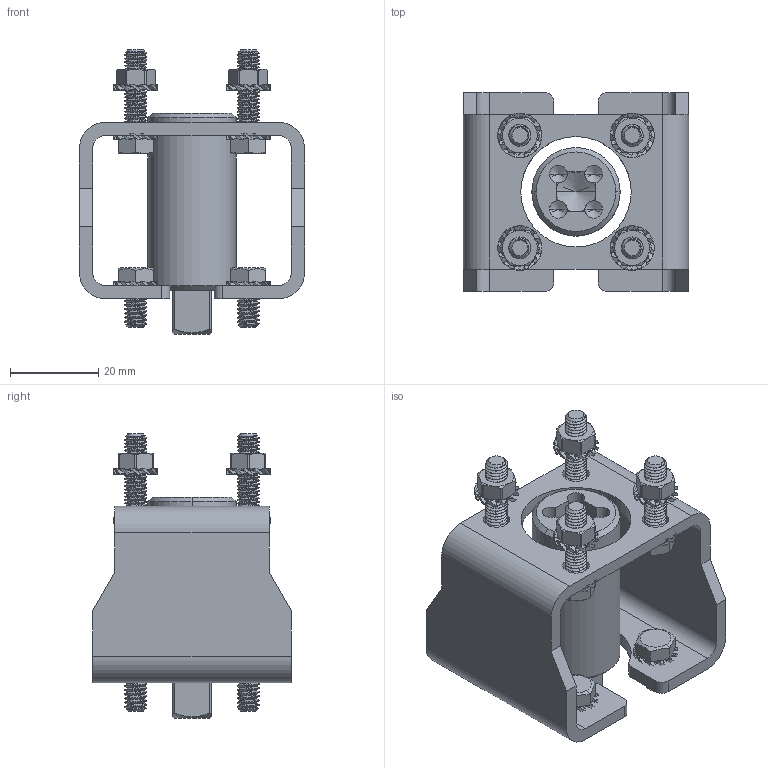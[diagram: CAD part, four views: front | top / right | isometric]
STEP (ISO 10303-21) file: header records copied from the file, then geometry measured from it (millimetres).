
FILE_DESCRIPTION((''),'2;1');
FILE_NAME('74750040700_ASM','2022-02-14T08:29:06',('alfio.taboni'),('CDM Tecnoconsulting'),'CREO PARAMETRIC BY PTC INC, 2020053','CREO PARAMETRIC BY PTC INC, 2020053','');
FILE_SCHEMA(('CONFIG_CONTROL_DESIGN','SHAPE_APPEARANCE_LAYERS_GROUPS'));
Length unit declared in the file: millimetre
Products named in the file (7): 74701540500; 74820230500; RONDELLA_DENT_05; M5X10; M5X20_ES; DADO_M5; 74750040700_ASM
Assembly tree (26 placements, depth 2):
  74750040700_ASM
    74701540500
    74820230500
    RONDELLA_DENT_05  x12
    M5X10  x4
    M5X20_ES  x4
    DADO_M5  x4
Bounding box: 51 x 45 x 64.4 mm (x, y, z)
Volume: 31294.3 mm3; surface area: 23376.7 mm2
Topology: 26 solids, 26 shells, 2339 faces, 6688 edges, 4415 vertices
Faces by surface type: plane 857, cylinder 654, cone 368, torus 288, bspline 116, extrusion 56
Entity records: 27882 total; most frequent: CARTESIAN_POINT 14363, ORIENTED_EDGE 2988, DIRECTION 2363, EDGE_CURVE 1494, VERTEX_POINT 984, VECTOR 791, AXIS2_PLACEMENT_3D 786, LINE 735
